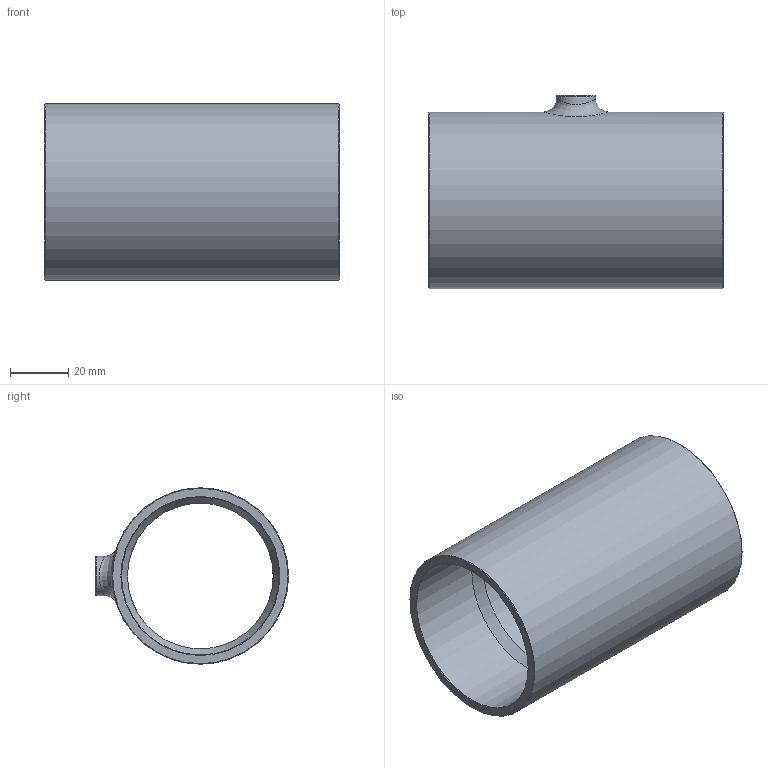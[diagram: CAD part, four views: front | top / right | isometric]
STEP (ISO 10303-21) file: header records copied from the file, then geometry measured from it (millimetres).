
FILE_DESCRIPTION((''),'2;1');
FILE_NAME('G:\SANHA-Ternat\Technik\Management\ontwikkeling\PRODUCTTEKENINGEN\29000serie\29130\2913021814218.stp','2020-03-02T08:32:05',('vdvijverd'),(''),'Autodesk Inventor 2009','Autodesk Inventor 2009','');
FILE_SCHEMA(('AUTOMOTIVE_DESIGN { 1 0 10303 214 1 1 1 1 }'));
Length unit declared in the file: millimetre
Products named in the file (1): 2913021814218
Bounding box: 101 x 66.28 x 60.55 mm (x, y, z)
Volume: 73560.3 mm3; surface area: 37417.3 mm2
Topology: 1 solids, 1 shells, 22 faces, 51 edges, 31 vertices
Faces by surface type: cone 8, cylinder 7, bspline 4, plane 3
Full cylindrical faces by diameter (mm): 6.47 x1, 13.47 x1, 50 x1, 54.155 x1, 60.55 x1
Entity records: 1737 total; most frequent: CARTESIAN_POINT 1320, DIRECTION 80, ORIENTED_EDGE 58, EDGE_LOOP 42, AXIS2_PLACEMENT_3D 40, EDGE_CURVE 29, VERTEX_POINT 25, FACE_OUTER_BOUND 22
